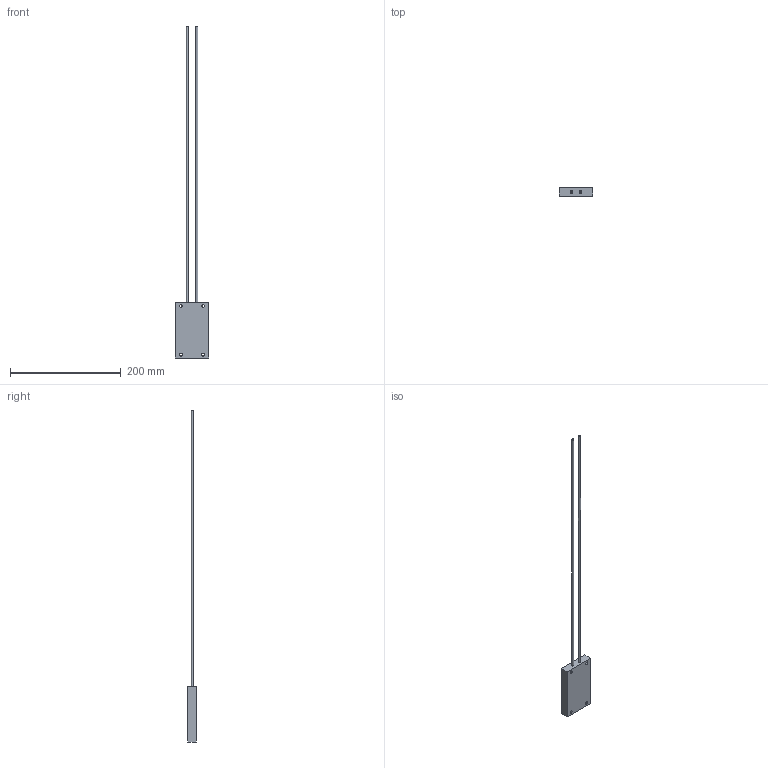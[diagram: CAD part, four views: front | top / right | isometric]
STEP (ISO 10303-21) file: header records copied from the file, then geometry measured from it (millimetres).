
FILE_DESCRIPTION(/* description */ (''),/* implementation_level */ '2;1');
FILE_NAME(/* name */ 'C:\_Vault\Dati\CATALOGO\RFD\RFD100.stp',/* time_stamp */ '2014-03-24T16:33:02+01:00',/* author */ ('stefano'),/* organization */ (''),/* preprocessor_version */ 'ST-DEVELOPER v15.2',/* originating_system */ 'Autodesk Inventor 2014',/* authorisation */ '');
FILE_SCHEMA (('AUTOMOTIVE_DESIGN { 1 0 10303 214 3 1 1 }'));
Length unit declared in the file: millimetre
Products named in the file (1): RFD100
Bounding box: 60 x 15 x 600.1 mm (x, y, z)
Volume: 101388.9 mm3; surface area: 30153 mm2
Topology: 1 solids, 1 shells, 18 faces, 40 edges, 28 vertices
Faces by surface type: plane 10, cylinder 8
Full cylindrical faces by diameter (mm): 2 x2, 4 x2, 5 x4
Entity records: 526 total; most frequent: DIRECTION 82, CARTESIAN_POINT 71, ORIENTED_EDGE 56, EDGE_LOOP 38, AXIS2_PLACEMENT_3D 35, EDGE_CURVE 28, FACE_BOUND 25, VERTEX_POINT 24
